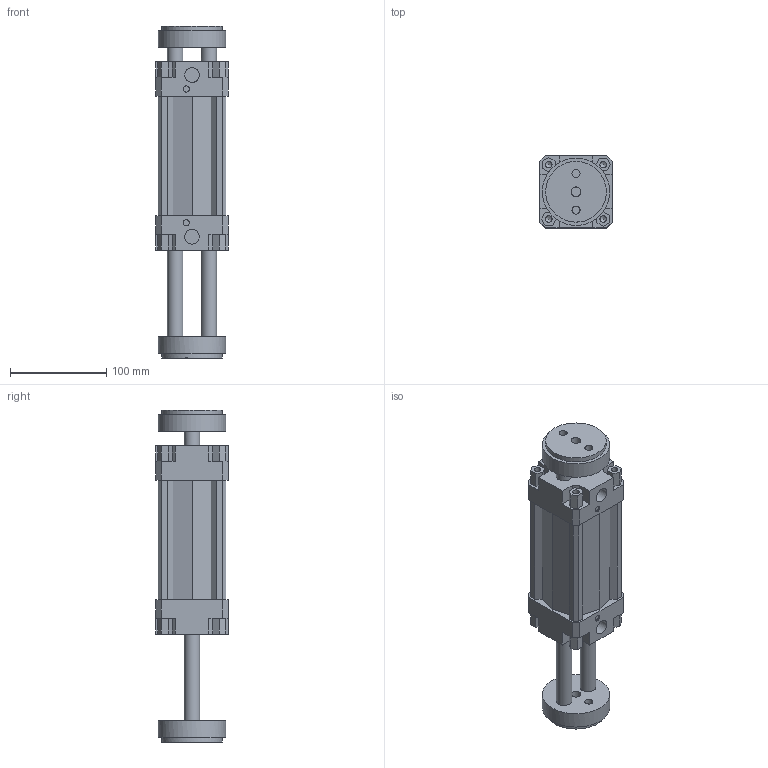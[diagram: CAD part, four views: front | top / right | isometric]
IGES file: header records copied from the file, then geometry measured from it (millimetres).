
Global section: file name: 132#_063_0075_06; native system: Autodesk Inventor 2014; preprocessor: unknown; author: A. Manieri; date: 20161006.155919; units: millimetre
Bounding box: 75 x 75 x 345 mm (x, y, z)
Volume: 896491 mm3; surface area: 185544.9 mm2
Topology: 2 solids, 2 shells, 190 faces, 518 edges, 354 vertices
Faces by surface type: bspline 190
